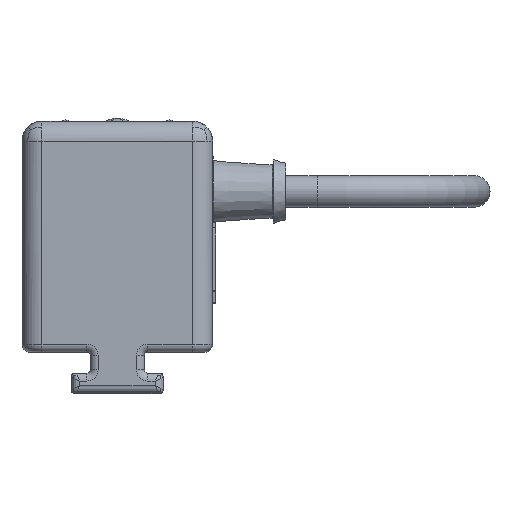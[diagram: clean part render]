
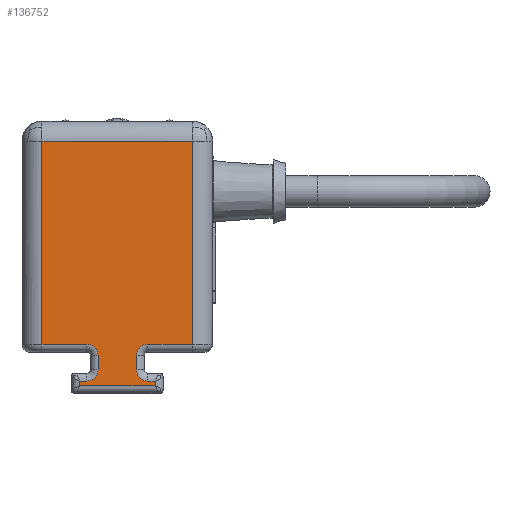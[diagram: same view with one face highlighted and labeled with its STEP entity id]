
A CAD part, left-side view. The second image highlights one B-rep face of the part: STEP entity #136752.
In plain terms, the highlighted planar face has unit normal (-1, 0, 0) as drawn and (0, 0, -1) by its records, which use the part's own axes.
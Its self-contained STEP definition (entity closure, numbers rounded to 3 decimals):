
#29040=PLANE('',#134589);
#29848=CIRCLE('',#134590,1.78);
#29849=CIRCLE('',#134591,1.778);
#29850=CIRCLE('',#134592,1.778);
#29851=CIRCLE('',#134593,1.78);
#30421=ORIENTED_EDGE('',*,*,#42835,.T.);
#30422=ORIENTED_EDGE('',*,*,#42836,.F.);
#30423=ORIENTED_EDGE('',*,*,#42837,.F.);
#30424=ORIENTED_EDGE('',*,*,#42838,.F.);
#30425=ORIENTED_EDGE('',*,*,#42831,.F.);
#30426=ORIENTED_EDGE('',*,*,#42839,.F.);
#30427=ORIENTED_EDGE('',*,*,#42840,.F.);
#30428=ORIENTED_EDGE('',*,*,#42841,.F.);
#30429=ORIENTED_EDGE('',*,*,#42842,.F.);
#30430=ORIENTED_EDGE('',*,*,#42843,.F.);
#30431=ORIENTED_EDGE('',*,*,#42844,.F.);
#30432=ORIENTED_EDGE('',*,*,#42845,.F.);
#30433=ORIENTED_EDGE('',*,*,#42846,.F.);
#30434=ORIENTED_EDGE('',*,*,#42847,.F.);
#30435=ORIENTED_EDGE('',*,*,#42848,.F.);
#30436=ORIENTED_EDGE('',*,*,#42849,.F.);
#37039=VECTOR('',#49502,1.);
#37041=VECTOR('',#49510,1.);
#37042=VECTOR('',#49511,1.);
#37043=VECTOR('',#49512,1.);
#37044=VECTOR('',#49513,1.);
#37045=VECTOR('',#49516,1.);
#37046=VECTOR('',#49519,1.);
#37047=VECTOR('',#49520,1.);
#37048=VECTOR('',#49521,1.);
#37049=VECTOR('',#49522,1.);
#37050=VECTOR('',#49523,1.);
#37051=VECTOR('',#49526,1.);
#38852=LINE('',#55156,#37039);
#38854=LINE('',#55165,#37041);
#38855=LINE('',#55167,#37042);
#38856=LINE('',#55169,#37043);
#38857=LINE('',#55170,#37044);
#38858=LINE('',#55174,#37045);
#38859=LINE('',#55178,#37046);
#38860=LINE('',#55180,#37047);
#38861=LINE('',#55182,#37048);
#38862=LINE('',#55184,#37049);
#38863=LINE('',#55186,#37050);
#38864=LINE('',#55190,#37051);
#40665=VERTEX_POINT('',#55154);
#40666=VERTEX_POINT('',#55155);
#40669=VERTEX_POINT('',#55163);
#40670=VERTEX_POINT('',#55164);
#40671=VERTEX_POINT('',#55166);
#40672=VERTEX_POINT('',#55168);
#40673=VERTEX_POINT('',#55171);
#40674=VERTEX_POINT('',#55173);
#40675=VERTEX_POINT('',#55175);
#40676=VERTEX_POINT('',#55177);
#40677=VERTEX_POINT('',#55179);
#40678=VERTEX_POINT('',#55181);
#40679=VERTEX_POINT('',#55183);
#40680=VERTEX_POINT('',#55185);
#40681=VERTEX_POINT('',#55187);
#40682=VERTEX_POINT('',#55189);
#42831=EDGE_CURVE('',#40665,#40666,#38852,.T.);
#42835=EDGE_CURVE('',#40669,#40670,#38854,.T.);
#42836=EDGE_CURVE('',#40671,#40670,#38855,.T.);
#42837=EDGE_CURVE('',#40672,#40671,#38856,.T.);
#42838=EDGE_CURVE('',#40666,#40672,#38857,.T.);
#42839=EDGE_CURVE('',#40673,#40665,#29848,.T.);
#42840=EDGE_CURVE('',#40674,#40673,#38858,.T.);
#42841=EDGE_CURVE('',#40675,#40674,#29849,.T.);
#42842=EDGE_CURVE('',#40676,#40675,#38859,.T.);
#42843=EDGE_CURVE('',#40677,#40676,#38860,.T.);
#42844=EDGE_CURVE('',#40678,#40677,#38861,.T.);
#42845=EDGE_CURVE('',#40679,#40678,#38862,.T.);
#42846=EDGE_CURVE('',#40680,#40679,#38863,.T.);
#42847=EDGE_CURVE('',#40681,#40680,#29850,.T.);
#42848=EDGE_CURVE('',#40682,#40681,#38864,.T.);
#42849=EDGE_CURVE('',#40669,#40682,#29851,.T.);
#46143=EDGE_LOOP('',(#30421,#30422,#30423,#30424,#30425,#30426,#30427,#30428,
#30429,#30430,#30431,#30432,#30433,#30434,#30435,#30436));
#47822=FACE_BOUND('',#46143,.T.);
#49502=DIRECTION('',(7.156,0.,0.));
#49508=DIRECTION('',(0.,0.,-1.));
#49509=DIRECTION('',(0.,1.,0.));
#49510=DIRECTION('',(-7.156,0.,0.));
#49511=DIRECTION('',(0.,-32.304,0.));
#49512=DIRECTION('',(-23.968,0.,0.));
#49513=DIRECTION('',(0.,32.304,0.));
#49514=DIRECTION('',(0.,0.,-1.));
#49515=DIRECTION('',(-1.78,0.,0.));
#49516=DIRECTION('',(0.,2.284,0.));
#49517=DIRECTION('',(0.,0.,-1.));
#49518=DIRECTION('',(0.,-1.778,0.));
#49519=DIRECTION('',(-1.206,0.,0.));
#49520=DIRECTION('',(0.,0.762,0.));
#49521=DIRECTION('',(12.065,0.,0.));
#49522=DIRECTION('',(0.,-0.762,0.));
#49523=DIRECTION('',(-1.206,0.,0.));
#49524=DIRECTION('',(0.,0.,-1.));
#49525=DIRECTION('',(1.778,0.,0.));
#49526=DIRECTION('',(0.,-2.284,0.));
#49527=DIRECTION('',(0.,0.,-1.));
#49528=DIRECTION('',(0.978,1.488,0.));
#55154=CARTESIAN_POINT('',(18.722,1.27,0.));
#55155=CARTESIAN_POINT('',(25.878,1.27,0.));
#55156=CARTESIAN_POINT('',(18.722,1.27,0.));
#55162=CARTESIAN_POINT('',(0.,0.,0.));
#55163=CARTESIAN_POINT('',(9.066,1.27,0.));
#55164=CARTESIAN_POINT('',(1.91,1.27,0.));
#55165=CARTESIAN_POINT('',(9.066,1.27,0.));
#55166=CARTESIAN_POINT('',(1.91,33.574,0.));
#55167=CARTESIAN_POINT('',(1.91,33.574,0.));
#55168=CARTESIAN_POINT('',(25.878,33.574,0.));
#55169=CARTESIAN_POINT('',(25.878,33.574,0.));
#55170=CARTESIAN_POINT('',(25.878,1.27,0.));
#55171=CARTESIAN_POINT('',(16.942,-0.51,0.));
#55172=CARTESIAN_POINT('',(18.722,-0.51,0.));
#55173=CARTESIAN_POINT('',(16.942,-2.794,0.));
#55174=CARTESIAN_POINT('',(16.942,-2.794,0.));
#55175=CARTESIAN_POINT('',(18.72,-4.572,0.));
#55176=CARTESIAN_POINT('',(18.72,-2.794,0.));
#55177=CARTESIAN_POINT('',(19.926,-4.572,0.));
#55178=CARTESIAN_POINT('',(19.926,-4.572,0.));
#55179=CARTESIAN_POINT('',(19.926,-5.334,0.));
#55180=CARTESIAN_POINT('',(19.926,-5.334,0.));
#55181=CARTESIAN_POINT('',(7.861,-5.334,0.));
#55182=CARTESIAN_POINT('',(7.861,-5.334,0.));
#55183=CARTESIAN_POINT('',(7.861,-4.572,0.));
#55184=CARTESIAN_POINT('',(7.861,-4.572,0.));
#55185=CARTESIAN_POINT('',(9.068,-4.572,0.));
#55186=CARTESIAN_POINT('',(9.068,-4.572,0.));
#55187=CARTESIAN_POINT('',(10.846,-2.794,0.));
#55188=CARTESIAN_POINT('',(9.068,-2.794,0.));
#55189=CARTESIAN_POINT('',(10.846,-0.51,0.));
#55190=CARTESIAN_POINT('',(10.846,-0.51,0.));
#55191=CARTESIAN_POINT('',(9.066,-0.51,0.));
#134589=AXIS2_PLACEMENT_3D('',#55162,#49508,#49509);
#134590=AXIS2_PLACEMENT_3D('',#55172,#49514,#49515);
#134591=AXIS2_PLACEMENT_3D('',#55176,#49517,#49518);
#134592=AXIS2_PLACEMENT_3D('',#55188,#49524,#49525);
#134593=AXIS2_PLACEMENT_3D('',#55191,#49527,#49528);
#136752=ADVANCED_FACE('',(#47822),#29040,.T.);
